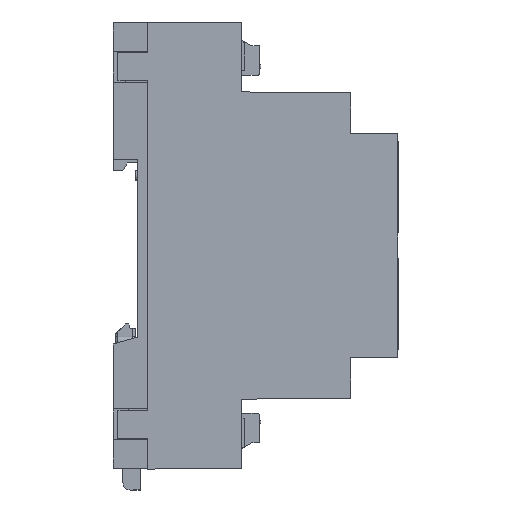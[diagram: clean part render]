
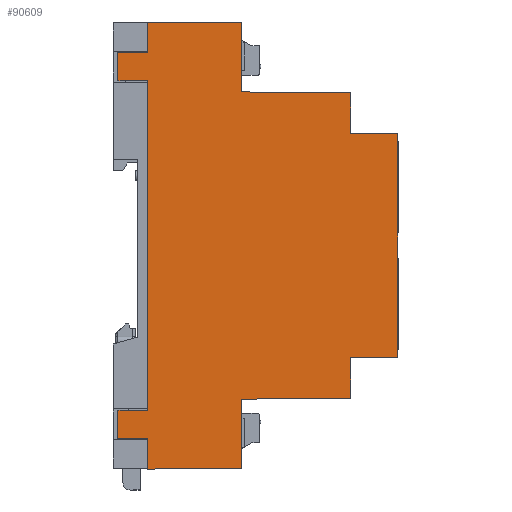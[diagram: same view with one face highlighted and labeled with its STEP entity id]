
A CAD part, left-side view. The second image highlights one B-rep face of the part: STEP entity #90609.
In plain terms, the highlighted planar face has unit normal (-1, 0, 0) as drawn and (0, -1, 0) by its records, which use the part's own axes.
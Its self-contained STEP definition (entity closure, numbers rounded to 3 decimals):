
#3945=PLANE('',#95367);
#7534=FACE_OUTER_BOUND('',#12207,.T.);
#12207=EDGE_LOOP('',(#67170,#67171,#67172,#67173,#67174,#67175,#67176,#67177,
#67178,#67179,#67180,#67181,#67182,#67183,#67184,#67185,#67186,#67187,#67188,
#67189));
#17360=LINE('',#128505,#28566);
#17369=LINE('',#128523,#28575);
#17371=LINE('',#128527,#28577);
#17374=LINE('',#128532,#28580);
#17377=LINE('',#128538,#28583);
#17402=LINE('',#128589,#28608);
#17413=LINE('',#128609,#28619);
#17414=LINE('',#128612,#28620);
#17418=LINE('',#128619,#28624);
#17443=LINE('',#128670,#28649);
#17453=LINE('',#128687,#28659);
#17460=LINE('',#128699,#28666);
#17652=LINE('',#129167,#28858);
#17655=LINE('',#129172,#28861);
#17658=LINE('',#129178,#28864);
#17660=LINE('',#129182,#28866);
#17662=LINE('',#129186,#28868);
#17665=LINE('',#129192,#28871);
#17668=LINE('',#129198,#28874);
#17671=LINE('',#129203,#28877);
#28566=VECTOR('',#102959,10.);
#28575=VECTOR('',#102976,10.);
#28577=VECTOR('',#102980,10.);
#28580=VECTOR('',#102985,10.);
#28583=VECTOR('',#102990,10.);
#28608=VECTOR('',#103031,10.);
#28619=VECTOR('',#103050,10.);
#28620=VECTOR('',#103053,10.);
#28624=VECTOR('',#103059,10.);
#28649=VECTOR('',#103098,10.);
#28659=VECTOR('',#103114,10.);
#28666=VECTOR('',#103125,10.);
#28858=VECTOR('',#103577,10.);
#28861=VECTOR('',#103582,10.);
#28864=VECTOR('',#103587,10.);
#28866=VECTOR('',#103591,10.);
#28868=VECTOR('',#103595,10.);
#28871=VECTOR('',#103600,10.);
#28874=VECTOR('',#103605,10.);
#28877=VECTOR('',#103610,10.);
#41963=VERTEX_POINT('',#128499);
#41965=VERTEX_POINT('',#128503);
#41970=VERTEX_POINT('',#128522);
#41971=VERTEX_POINT('',#128526);
#41972=VERTEX_POINT('',#128530);
#41974=VERTEX_POINT('',#128537);
#41991=VERTEX_POINT('',#128586);
#41992=VERTEX_POINT('',#128588);
#41998=VERTEX_POINT('',#128611);
#42000=VERTEX_POINT('',#128617);
#42019=VERTEX_POINT('',#128669);
#42022=VERTEX_POINT('',#128684);
#42023=VERTEX_POINT('',#128686);
#42170=VERTEX_POINT('',#129163);
#42172=VERTEX_POINT('',#129166);
#42174=VERTEX_POINT('',#129175);
#42176=VERTEX_POINT('',#129181);
#42177=VERTEX_POINT('',#129185);
#42179=VERTEX_POINT('',#129191);
#42181=VERTEX_POINT('',#129197);
#52218=EDGE_CURVE('',#41963,#41965,#17360,.T.);
#52227=EDGE_CURVE('',#41965,#41970,#17369,.T.);
#52229=EDGE_CURVE('',#41963,#41971,#17371,.T.);
#52232=EDGE_CURVE('',#41970,#41972,#17374,.T.);
#52235=EDGE_CURVE('',#41974,#41971,#17377,.T.);
#52260=EDGE_CURVE('',#41991,#41992,#17402,.T.);
#52271=EDGE_CURVE('',#41992,#41972,#17413,.T.);
#52272=EDGE_CURVE('',#41991,#41998,#17414,.T.);
#52276=EDGE_CURVE('',#41998,#42000,#17418,.T.);
#52301=EDGE_CURVE('',#42019,#41974,#17443,.T.);
#52311=EDGE_CURVE('',#42023,#42022,#17453,.T.);
#52318=EDGE_CURVE('',#42000,#42023,#17460,.T.);
#52546=EDGE_CURVE('',#42172,#42170,#17652,.T.);
#52549=EDGE_CURVE('',#42022,#42172,#17655,.T.);
#52552=EDGE_CURVE('',#42170,#42174,#17658,.T.);
#52554=EDGE_CURVE('',#42176,#42019,#17660,.T.);
#52556=EDGE_CURVE('',#42177,#42176,#17662,.T.);
#52559=EDGE_CURVE('',#42179,#42177,#17665,.T.);
#52562=EDGE_CURVE('',#42181,#42179,#17668,.T.);
#52565=EDGE_CURVE('',#42174,#42181,#17671,.T.);
#67170=ORIENTED_EDGE('',*,*,#52556,.T.);
#67171=ORIENTED_EDGE('',*,*,#52554,.T.);
#67172=ORIENTED_EDGE('',*,*,#52301,.T.);
#67173=ORIENTED_EDGE('',*,*,#52235,.T.);
#67174=ORIENTED_EDGE('',*,*,#52229,.F.);
#67175=ORIENTED_EDGE('',*,*,#52218,.T.);
#67176=ORIENTED_EDGE('',*,*,#52227,.T.);
#67177=ORIENTED_EDGE('',*,*,#52232,.T.);
#67178=ORIENTED_EDGE('',*,*,#52271,.F.);
#67179=ORIENTED_EDGE('',*,*,#52260,.F.);
#67180=ORIENTED_EDGE('',*,*,#52272,.T.);
#67181=ORIENTED_EDGE('',*,*,#52276,.T.);
#67182=ORIENTED_EDGE('',*,*,#52318,.T.);
#67183=ORIENTED_EDGE('',*,*,#52311,.T.);
#67184=ORIENTED_EDGE('',*,*,#52549,.T.);
#67185=ORIENTED_EDGE('',*,*,#52546,.T.);
#67186=ORIENTED_EDGE('',*,*,#52552,.T.);
#67187=ORIENTED_EDGE('',*,*,#52565,.T.);
#67188=ORIENTED_EDGE('',*,*,#52562,.T.);
#67189=ORIENTED_EDGE('',*,*,#52559,.T.);
#90609=ADVANCED_FACE('',(#7534),#3945,.T.);
#95367=AXIS2_PLACEMENT_3D('',#129202,#103608,#103609);
#102959=DIRECTION('',(1.,0.,0.));
#102976=DIRECTION('',(0.,0.,1.));
#102980=DIRECTION('',(0.,0.,1.));
#102985=DIRECTION('',(1.,0.,0.));
#102990=DIRECTION('',(1.,0.,0.));
#103031=DIRECTION('',(-1.,0.,0.));
#103050=DIRECTION('',(0.,0.,1.));
#103053=DIRECTION('',(0.,0.,1.));
#103059=DIRECTION('',(1.,0.,0.));
#103098=DIRECTION('',(-0.008,0.,-1.));
#103114=DIRECTION('',(-1.,0.,0.));
#103125=DIRECTION('',(-0.008,0.,1.));
#103577=DIRECTION('',(-1.,0.,0.));
#103582=DIRECTION('',(-0.008,0.,1.));
#103587=DIRECTION('',(-0.007,0.,1.));
#103591=DIRECTION('',(-1.,0.,0.));
#103595=DIRECTION('',(-0.008,0.,-1.));
#103600=DIRECTION('',(-1.,0.,0.));
#103605=DIRECTION('',(-0.007,0.,-1.));
#103608=DIRECTION('center_axis',(0.,-1.,0.));
#103609=DIRECTION('ref_axis',(0.,0.,-1.));
#103610=DIRECTION('',(-1.,0.,0.));
#128499=CARTESIAN_POINT('',(-38.9,-18.15,-6.));
#128503=CARTESIAN_POINT('',(-33.2,-18.15,-6.));
#128505=CARTESIAN_POINT('',(-38.9,-18.15,-6.));
#128522=CARTESIAN_POINT('',(-33.2,-18.15,0.));
#128523=CARTESIAN_POINT('',(-33.2,-18.15,-6.));
#128526=CARTESIAN_POINT('',(-38.9,-18.15,0.));
#128527=CARTESIAN_POINT('',(-38.9,-18.15,-6.));
#128530=CARTESIAN_POINT('',(33.2,-18.15,0.));
#128532=CARTESIAN_POINT('',(-43.6,-18.15,0.));
#128537=CARTESIAN_POINT('',(-45.1,-18.15,0.));
#128538=CARTESIAN_POINT('',(-43.6,-18.15,0.));
#128586=CARTESIAN_POINT('',(38.9,-18.15,-6.));
#128588=CARTESIAN_POINT('',(33.2,-18.15,-6.));
#128589=CARTESIAN_POINT('',(38.9,-18.15,-6.));
#128609=CARTESIAN_POINT('',(33.2,-18.15,-6.));
#128611=CARTESIAN_POINT('',(38.9,-18.15,0.));
#128612=CARTESIAN_POINT('',(38.9,-18.15,-6.));
#128617=CARTESIAN_POINT('',(45.1,-18.15,0.));
#128619=CARTESIAN_POINT('',(-43.6,-18.15,0.));
#128669=CARTESIAN_POINT('',(-44.95,-18.15,19.));
#128670=CARTESIAN_POINT('',(-45.1,-18.15,0.));
#128684=CARTESIAN_POINT('',(30.99,-18.15,19.));
#128686=CARTESIAN_POINT('',(44.95,-18.15,19.));
#128687=CARTESIAN_POINT('',(30.99,-18.15,19.));
#128699=CARTESIAN_POINT('',(44.95,-18.15,19.));
#129163=CARTESIAN_POINT('',(22.64,-18.15,41.));
#129166=CARTESIAN_POINT('',(30.81,-18.15,41.));
#129167=CARTESIAN_POINT('',(22.64,-18.15,41.));
#129172=CARTESIAN_POINT('',(30.81,-18.15,41.));
#129175=CARTESIAN_POINT('',(22.57,-18.15,50.5));
#129178=CARTESIAN_POINT('',(22.57,-18.15,50.5));
#129181=CARTESIAN_POINT('',(-30.99,-18.15,19.));
#129182=CARTESIAN_POINT('',(-30.99,-18.15,19.));
#129185=CARTESIAN_POINT('',(-30.81,-18.15,41.));
#129186=CARTESIAN_POINT('',(-30.99,-18.15,19.));
#129191=CARTESIAN_POINT('',(-22.64,-18.15,41.));
#129192=CARTESIAN_POINT('',(-30.81,-18.15,41.));
#129197=CARTESIAN_POINT('',(-22.57,-18.15,50.5));
#129198=CARTESIAN_POINT('',(-22.64,-18.15,41.));
#129202=CARTESIAN_POINT('Origin',(-27.11,-18.15,35.841));
#129203=CARTESIAN_POINT('',(21.07,-18.15,50.5));
